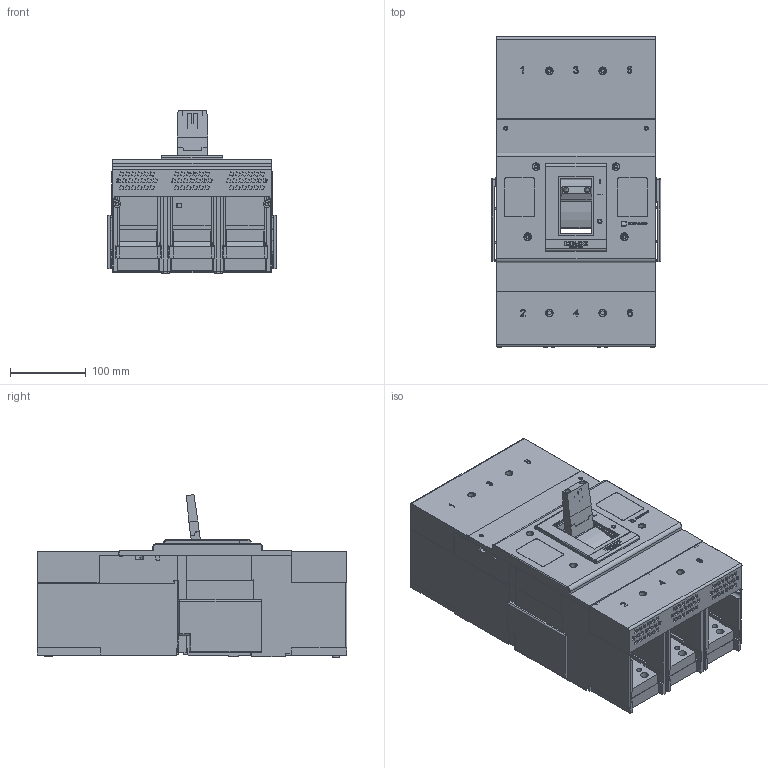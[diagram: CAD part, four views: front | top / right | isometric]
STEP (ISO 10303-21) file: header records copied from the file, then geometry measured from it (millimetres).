
FILE_DESCRIPTION((''),'2;1');
FILE_NAME('CDM6H-1600-1600A_2000_ASM','2025-01-10T17:01:21',('Administrator'),(''),'CREO PARAMETRIC BY PTC INC, 2021404','CREO PARAMETRIC BY PTC INC, 2021404','');
FILE_SCHEMA(('CONFIG_CONTROL_DESIGN'));
Products named in the file (24): CDM6H-1600-1600A_20003; CDM6H-1600-1600A_20004; CDM6H-1600-1600A_20005; CDM6H-1600-1600A_20006; CDM6H-1600-1600A_20007; CDM6H-1600-1600A_20008; CDM6H-1600-1600A_20009; CDM6H-1600-1600A_20010; CDM6H-1600-1600A_20011; CDM6H-1600-1600A_20012; CDM6H-1600-1600A_20013; CDM6H-1600-1600A_20014; CDM6H-1600-1600A_20015; CDM6H-1600-1600A_20016; CDM6H-1600-1600A_20017; CDM6H-1600-1600A_20018; CDM6H-1600-1600A_20019; CDM6H-1600-1600A_20020; CDM6H-1600-1600A_20021; CDM6H-1600-1600A_20022; CDM6H-1600-1600A_20023; CDM6H-1600-1600A_20024; CDM6H-1600-1600A_20002_ASM; CDM6H-1600-1600A_2000_ASM
Assembly tree (23 placements, depth 3):
  CDM6H-1600-1600A_2000_ASM
    CDM6H-1600-1600A_20002_ASM
      CDM6H-1600-1600A_20003
      CDM6H-1600-1600A_20004
      CDM6H-1600-1600A_20005
      CDM6H-1600-1600A_20006
      CDM6H-1600-1600A_20007
      CDM6H-1600-1600A_20008
      CDM6H-1600-1600A_20009
      CDM6H-1600-1600A_20010
      CDM6H-1600-1600A_20011
      CDM6H-1600-1600A_20012
      CDM6H-1600-1600A_20013
      CDM6H-1600-1600A_20014
      CDM6H-1600-1600A_20015
      CDM6H-1600-1600A_20016
      CDM6H-1600-1600A_20017
      CDM6H-1600-1600A_20018
      CDM6H-1600-1600A_20019
      CDM6H-1600-1600A_20020
      CDM6H-1600-1600A_20021
      CDM6H-1600-1600A_20022
      CDM6H-1600-1600A_20023
      CDM6H-1600-1600A_20024
Bounding box: 223 x 408 x 214 mm (x, y, z)
Volume: 3848885.7 mm3; surface area: 1571272.6 mm2
Topology: 22 solids, 22 shells, 6467 faces, 18797 edges, 12570 vertices
Faces by surface type: plane 4823, cylinder 1301, torus 161, cone 101, extrusion 51, sphere 19, bspline 11
Entity records: 217990 total; most frequent: CARTESIAN_POINT 42534, ORIENTED_EDGE 37524, DIRECTION 35092, EDGE_CURVE 18762, VECTOR 14772, LINE 14721, VERTEX_POINT 12570, AXIS2_PLACEMENT_3D 10160
